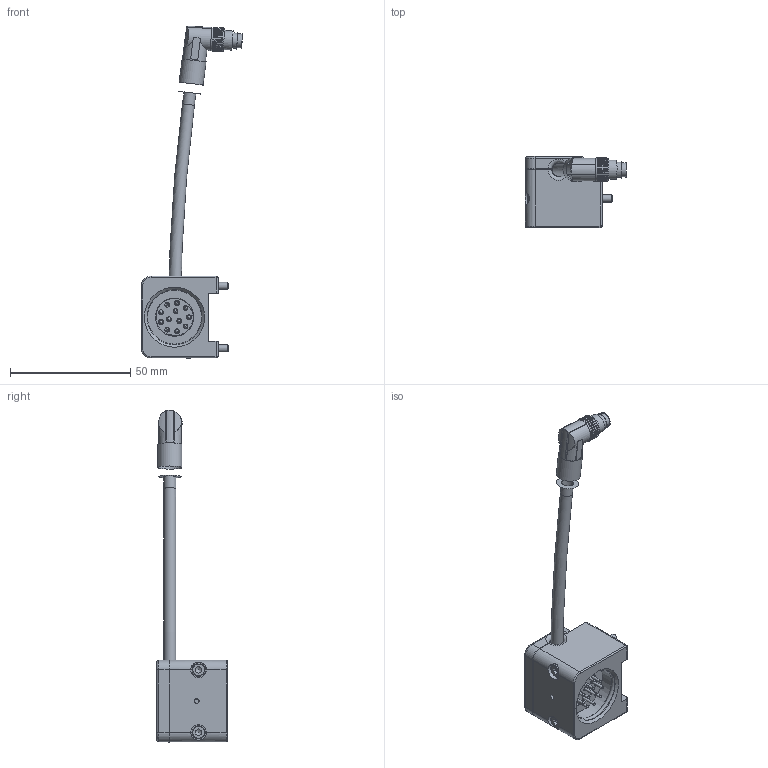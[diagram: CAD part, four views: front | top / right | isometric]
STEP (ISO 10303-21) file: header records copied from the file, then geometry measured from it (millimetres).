
FILE_DESCRIPTION(/* description */ (''),/* implementation_level */ '2;1');
FILE_NAME(/* name */ 'G-SEK100-O-1E12-300-M8-SW_.stp',/* time_stamp */ '2025-11-25T10:45:44+01:00',/* author */ ('ysplieth'),/* organization */ (''),/* preprocessor_version */ 'ST-DEVELOPER v20.1',/* originating_system */ 'Autodesk Inventor 2026',/* authorisation */ '');
FILE_SCHEMA (('AUTOMOTIVE_DESIGN { 1 0 10303 214 3 1 1 }'));
Length unit declared in the file: millimetre
Products named in the file (1): G-SEK100-O-1E12-300-M8-SW
Bounding box: 42.03 x 29.5 x 138.12 mm (x, y, z)
Volume: 26889.9 mm3; surface area: 16063.9 mm2
Topology: 2 solids, 11 shells, 690 faces, 1785 edges, 1151 vertices
Faces by surface type: plane 317, cylinder 263, cone 48, torus 24, sphere 20, bspline 18
Full cylindrical faces by diameter (mm): 0.6 x8, 1 x12, 1.6 x12, 2 x16, 2.013 x4, 2.5 x4, 2.9 x4, 3 x2, 3.4 x2, 4.5 x4, 5 x2, 5.5 x4, 5.8 x1, 6.3 x1, 6.5 x2, 8 x1, 9.4 x1, 10 x1, 15.9 x1, 17 x1, 17.1 x1, 18 x1, 23 x2, 25.5 x2
Entity records: 23633 total; most frequent: CARTESIAN_POINT 5816, DIRECTION 3643, ORIENTED_EDGE 3504, EDGE_CURVE 1752, AXIS2_PLACEMENT_3D 1387, VERTEX_POINT 1151, LINE 869, VECTOR 869
